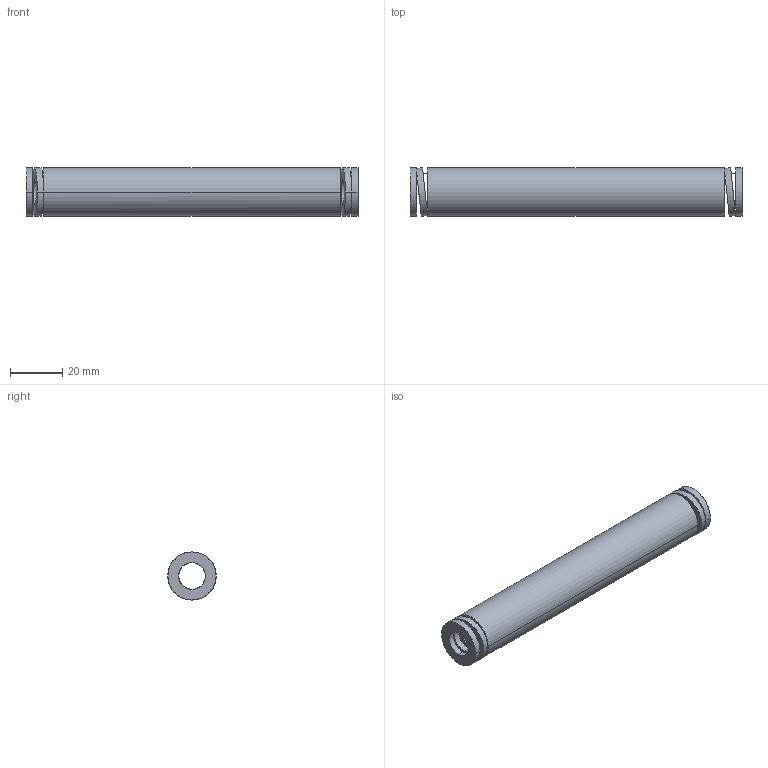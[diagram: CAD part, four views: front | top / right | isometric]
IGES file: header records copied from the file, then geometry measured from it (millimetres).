
Start section: START RECORD GO HERE.
Global section: file name: 392-B20-127.igs; native system: DASSAULT SYSTEMES CATIA V5 R20 - www.3ds.com; preprocessor: CATIA Version 5 Release 20 ; author: Utente; organization: NB04-ASUS; date: 20210812.154539; units: millimetre
Bounding box: 127 x 18.55 x 18.4 mm (x, y, z)
Surface area: 12901.1 mm2 (no closed solid volume)
Topology: 0 solids, 0 shells, 38 faces, 184 edges, 184 vertices
Faces by surface type: revolution 28, plane 10
